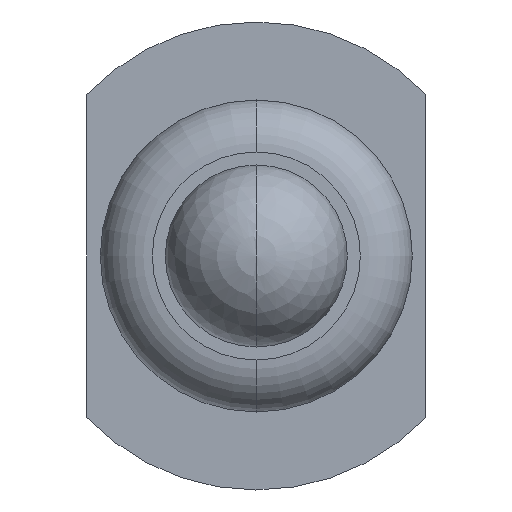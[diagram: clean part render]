
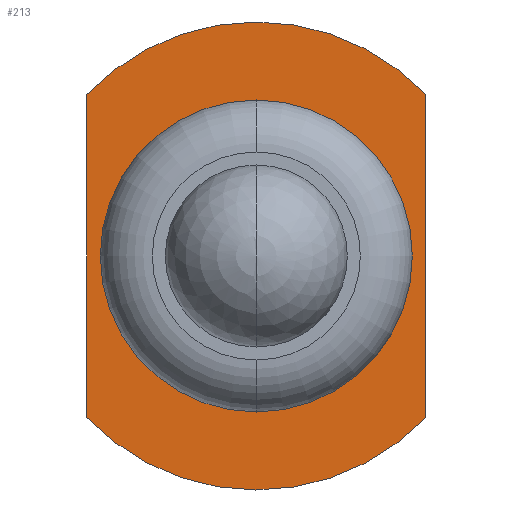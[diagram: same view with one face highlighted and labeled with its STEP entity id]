
A CAD part, left-side view. The second image highlights one B-rep face of the part: STEP entity #213.
In plain terms, the highlighted planar face has unit normal (-1, 0, 0).
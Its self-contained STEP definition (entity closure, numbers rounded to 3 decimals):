
#1=CARTESIAN_POINT('',(0.,0.,0.));
#2=DIRECTION('',(1.,0.,0.));
#3=DIRECTION('',(0.,0.,-1.));
#4=AXIS2_PLACEMENT_3D('',#1,#2,#3);
#6=CARTESIAN_POINT('',(0.,0.,0.));
#7=DIRECTION('',(1.,0.,0.));
#8=DIRECTION('',(0.,-0.722,-0.692));
#9=AXIS2_PLACEMENT_3D('',#6,#7,#8);
#11=DIRECTION('',(0.,0.,1.));
#12=VECTOR('',#11,1.24);
#13=CARTESIAN_POINT('',(0.,0.652,-0.62));
#14=LINE('',#13,#12);
#15=CARTESIAN_POINT('',(0.,0.,0.));
#16=DIRECTION('',(1.,0.,0.));
#17=DIRECTION('',(0.,0.725,0.689));
#18=AXIS2_PLACEMENT_3D('',#15,#16,#17);
#20=DIRECTION('',(0.,0.,-1.));
#21=VECTOR('',#20,1.245);
#22=CARTESIAN_POINT('',(0.,-0.65,0.622));
#23=LINE('',#22,#21);
#58=CARTESIAN_POINT('',(0.,0.,0.));
#59=DIRECTION('',(1.,0.,0.));
#60=DIRECTION('',(0.,0.,1.));
#61=AXIS2_PLACEMENT_3D('',#58,#59,#60);
#157=CARTESIAN_POINT('',(0.,-0.65,-0.622));
#158=CARTESIAN_POINT('',(0.,0.652,-0.62));
#159=VERTEX_POINT('',#157);
#160=VERTEX_POINT('',#158);
#161=CARTESIAN_POINT('',(0.,0.652,0.62));
#162=VERTEX_POINT('',#161);
#163=CARTESIAN_POINT('',(0.,-0.65,0.622));
#164=VERTEX_POINT('',#163);
#173=CARTESIAN_POINT('',(0.,0.,-0.6));
#174=CARTESIAN_POINT('',(0.,0.,0.6));
#175=VERTEX_POINT('',#173);
#176=VERTEX_POINT('',#174);
#193=CARTESIAN_POINT('',(0.,0.,0.));
#194=DIRECTION('',(1.,0.,0.));
#195=DIRECTION('',(0.,-1.,0.));
#196=AXIS2_PLACEMENT_3D('',#193,#194,#195);
#197=PLANE('',#196);
#199=ORIENTED_EDGE('',*,*,#198,.T.);
#201=ORIENTED_EDGE('',*,*,#200,.T.);
#203=ORIENTED_EDGE('',*,*,#202,.T.);
#205=ORIENTED_EDGE('',*,*,#204,.T.);
#206=EDGE_LOOP('',(#199,#201,#203,#205));
#207=FACE_OUTER_BOUND('',#206,.F.);
#208=ORIENTED_EDGE('',*,*,#182,.F.);
#210=ORIENTED_EDGE('',*,*,#209,.F.);
#211=EDGE_LOOP('',(#208,#210));
#212=FACE_BOUND('',#211,.F.);
#213=ADVANCED_FACE('',(#207,#212),#197,.F.);
#5=CIRCLE('',#4,0.6);
#10=CIRCLE('',#9,0.9);
#19=CIRCLE('',#18,0.9);
#62=CIRCLE('',#61,0.6);
#182=EDGE_CURVE('',#175,#176,#5,.T.);
#198=EDGE_CURVE('',#159,#160,#10,.T.);
#200=EDGE_CURVE('',#160,#162,#14,.T.);
#202=EDGE_CURVE('',#162,#164,#19,.T.);
#204=EDGE_CURVE('',#164,#159,#23,.T.);
#209=EDGE_CURVE('',#176,#175,#62,.T.);
